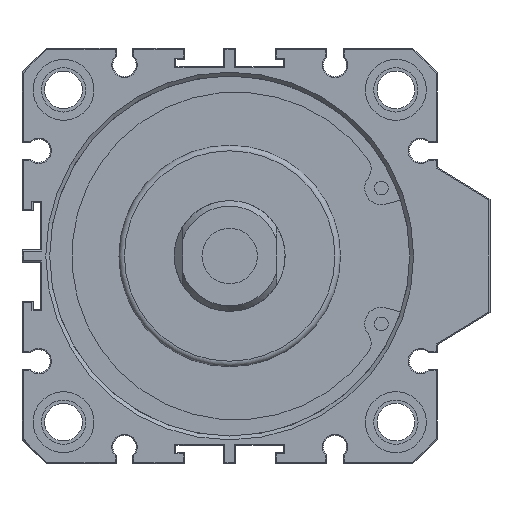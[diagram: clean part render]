
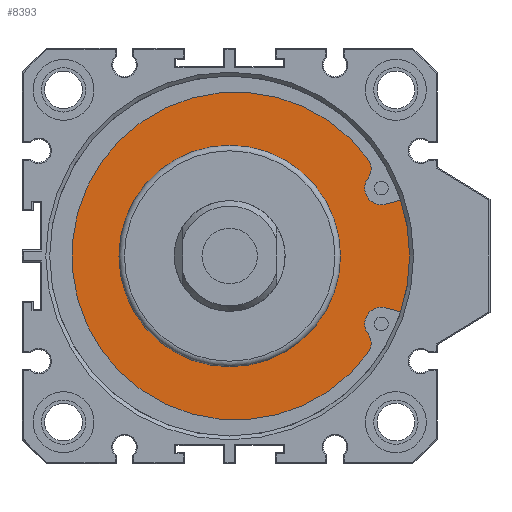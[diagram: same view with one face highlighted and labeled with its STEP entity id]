
A CAD part, front view. The second image highlights one B-rep face of the part: STEP entity #8393.
In plain terms, the highlighted planar face has unit normal (0, -1, 0).
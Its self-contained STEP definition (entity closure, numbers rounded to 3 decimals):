
#122=LINE('',#11190,#710);
#123=LINE('',#11203,#711);
#710=VECTOR('',#9433,1000.);
#711=VECTOR('',#9444,1000.);
#1416=ORIENTED_EDGE('',*,*,#2996,.T.);
#1417=ORIENTED_EDGE('',*,*,#2997,.T.);
#1418=ORIENTED_EDGE('',*,*,#2998,.T.);
#1419=ORIENTED_EDGE('',*,*,#2999,.T.);
#1420=ORIENTED_EDGE('',*,*,#3000,.T.);
#1421=ORIENTED_EDGE('',*,*,#3001,.T.);
#1422=ORIENTED_EDGE('',*,*,#3002,.T.);
#1423=ORIENTED_EDGE('',*,*,#3003,.F.);
#1424=ORIENTED_EDGE('',*,*,#2993,.T.);
#2993=EDGE_CURVE('',#3789,#3789,#4263,.T.);
#2996=EDGE_CURVE('',#3792,#3793,#122,.T.);
#2997=EDGE_CURVE('',#3793,#3794,#4266,.T.);
#2998=EDGE_CURVE('',#3794,#3795,#4267,.T.);
#2999=EDGE_CURVE('',#3795,#3796,#4268,.T.);
#3000=EDGE_CURVE('',#3796,#3797,#4269,.T.);
#3001=EDGE_CURVE('',#3797,#3798,#4270,.T.);
#3002=EDGE_CURVE('',#3798,#3799,#123,.T.);
#3003=EDGE_CURVE('',#3792,#3799,#4271,.T.);
#3789=VERTEX_POINT('',#11182);
#3792=VERTEX_POINT('',#11191);
#3793=VERTEX_POINT('',#11192);
#3794=VERTEX_POINT('',#11194);
#3795=VERTEX_POINT('',#11196);
#3796=VERTEX_POINT('',#11198);
#3797=VERTEX_POINT('',#11200);
#3798=VERTEX_POINT('',#11202);
#3799=VERTEX_POINT('',#11204);
#4263=CIRCLE('',#8801,20.);
#4266=CIRCLE('',#8807,3.015);
#4267=CIRCLE('',#8808,3.015);
#4268=CIRCLE('',#8809,29.6);
#4269=CIRCLE('',#8810,3.015);
#4270=CIRCLE('',#8811,3.015);
#4271=CIRCLE('',#8812,34.);
#4462=EDGE_LOOP('',(#1416,#1417,#1418,#1419,#1420,#1421,#1422,#1423));
#4463=EDGE_LOOP('',(#1424));
#4932=FACE_BOUND('',#4462,.T.);
#4933=FACE_BOUND('',#4463,.T.);
#5388=PLANE('',#8806);
#8393=ADVANCED_FACE('',(#4932,#4933),#5388,.T.);
#8801=AXIS2_PLACEMENT_3D('',#11181,#9421,#9422);
#8806=AXIS2_PLACEMENT_3D('',#11189,#9431,#9432);
#8807=AXIS2_PLACEMENT_3D('',#11193,#9434,#9435);
#8808=AXIS2_PLACEMENT_3D('',#11195,#9436,#9437);
#8809=AXIS2_PLACEMENT_3D('',#11197,#9438,#9439);
#8810=AXIS2_PLACEMENT_3D('',#11199,#9440,#9441);
#8811=AXIS2_PLACEMENT_3D('',#11201,#9442,#9443);
#8812=AXIS2_PLACEMENT_3D('',#11205,#9445,#9446);
#9421=DIRECTION('',(0.,1.,0.));
#9422=DIRECTION('',(-1.,0.,0.));
#9431=DIRECTION('',(0.,-1.,0.));
#9432=DIRECTION('',(1.,0.,0.));
#9433=DIRECTION('',(-0.966,0.,-0.259));
#9434=DIRECTION('',(0.,1.,0.));
#9435=DIRECTION('',(1.,0.,0.));
#9436=DIRECTION('',(0.,-1.,0.));
#9437=DIRECTION('',(-1.,0.,0.));
#9438=DIRECTION('',(0.,-1.,0.));
#9439=DIRECTION('',(1.,0.,0.));
#9440=DIRECTION('',(0.,-1.,0.));
#9441=DIRECTION('',(-1.,0.,0.));
#9442=DIRECTION('',(0.,1.,0.));
#9443=DIRECTION('',(1.,0.,0.));
#9444=DIRECTION('',(0.966,0.,-0.259));
#9445=DIRECTION('',(0.,1.,0.));
#9446=DIRECTION('',(-1.,0.,0.));
#11181=CARTESIAN_POINT('',(0.,5.2,0.));
#11182=CARTESIAN_POINT('',(-20.,5.2,0.));
#11189=CARTESIAN_POINT('',(0.,5.2,-34.));
#11190=CARTESIAN_POINT('',(32.347,5.2,10.472));
#11191=CARTESIAN_POINT('',(32.347,5.2,10.472));
#11192=CARTESIAN_POINT('',(28.176,5.2,9.354));
#11193=CARTESIAN_POINT('',(27.396,5.2,12.266));
#11194=CARTESIAN_POINT('',(25.131,5.2,14.255));
#11195=CARTESIAN_POINT('',(22.522,5.2,15.766));
#11196=CARTESIAN_POINT('',(25.115,5.2,17.305));
#11197=CARTESIAN_POINT('',(1.1,5.2,0.));
#11198=CARTESIAN_POINT('',(25.115,5.2,-17.305));
#11199=CARTESIAN_POINT('',(22.522,5.2,-15.766));
#11200=CARTESIAN_POINT('',(25.131,5.2,-14.255));
#11201=CARTESIAN_POINT('',(27.396,5.2,-12.266));
#11202=CARTESIAN_POINT('',(28.176,5.2,-9.354));
#11203=CARTESIAN_POINT('',(28.176,5.2,-9.354));
#11204=CARTESIAN_POINT('',(32.347,5.2,-10.472));
#11205=CARTESIAN_POINT('',(0.,5.2,0.));
